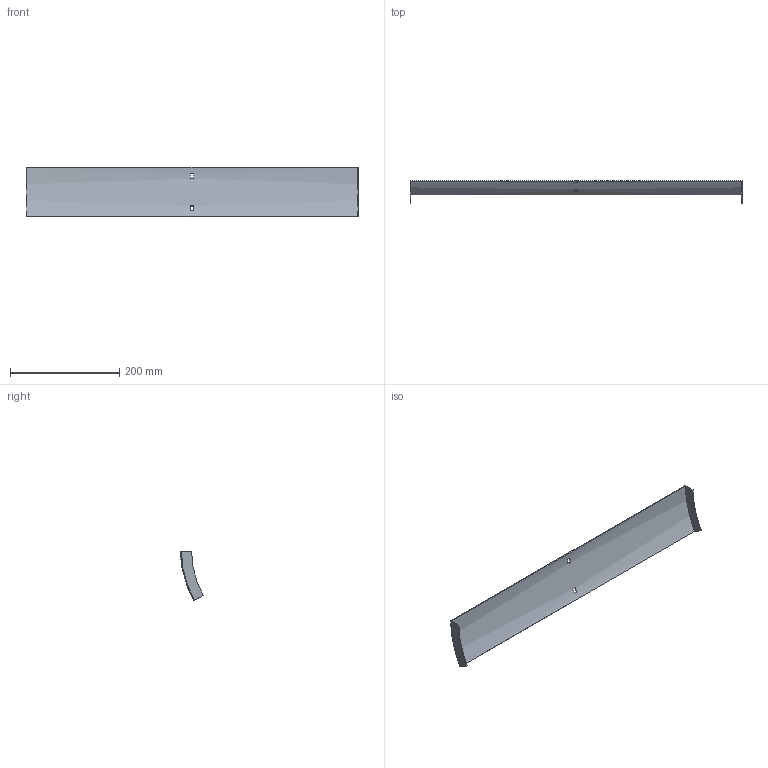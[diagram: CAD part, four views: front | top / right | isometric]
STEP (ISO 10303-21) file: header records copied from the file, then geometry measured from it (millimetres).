
FILE_DESCRIPTION (( 'STEP AP214' ), '1' );
FILE_NAME ('35N1C600.step', '2025-02-21T09:13:15', ( '' ), ( '' ), 'SwSTEP 2.0', 'SolidWorks 2023', '' );
FILE_SCHEMA (( 'AUTOMOTIVE_DESIGN' ));
Length unit declared in the file: millimetre
Products named in the file (1): 35N1C600
Bounding box: 607 x 41.5 x 90.25 mm (x, y, z)
Volume: 90450 mm3; surface area: 122878.8 mm2
Topology: 1 solids, 1 shells, 18 faces, 48 edges, 32 vertices
Faces by surface type: plane 14, cylinder 4
Entity records: 599 total; most frequent: DIRECTION 102, CARTESIAN_POINT 99, ORIENTED_EDGE 96, EDGE_CURVE 48, AXIS2_PLACEMENT_3D 35, LINE 32, VECTOR 32, VERTEX_POINT 32
